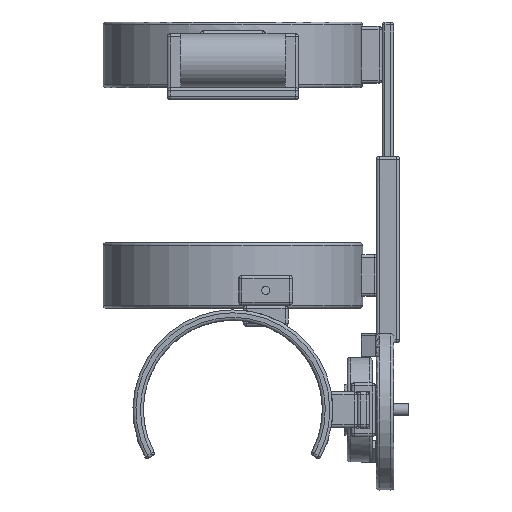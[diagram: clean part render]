
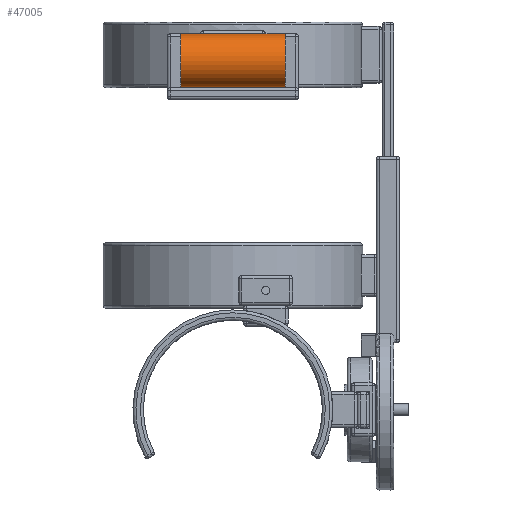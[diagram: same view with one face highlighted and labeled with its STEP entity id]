
A CAD part, front view. The second image highlights one B-rep face of the part: STEP entity #47005.
In plain terms, the highlighted cylindrical face has radius 18 mm (diameter 36 mm), a full revolution.
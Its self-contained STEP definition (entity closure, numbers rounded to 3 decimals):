
#47005 = ADVANCED_FACE('',(#47006),#47019,.T.);
#47006 = FACE_BOUND('',#47007,.T.);
#47007 = EDGE_LOOP('',(#47008,#47042,#47065,#47092));
#47008 = ORIENTED_EDGE('',*,*,#47009,.F.);
#47009 = EDGE_CURVE('',#47010,#47010,#47012,.T.);
#47010 = VERTEX_POINT('',#47011);
#47011 = CARTESIAN_POINT('',(35.,-127.,252.));
#47012 = SURFACE_CURVE('',#47013,(#47018,#47030),.PCURVE_S1.);
#47013 = CIRCLE('',#47014,18.);
#47014 = AXIS2_PLACEMENT_3D('',#47015,#47016,#47017);
#47015 = CARTESIAN_POINT('',(35.,-127.,234.));
#47016 = DIRECTION('',(1.,0.,0.));
#47017 = DIRECTION('',(-0.,0.,1.));
#47018 = PCURVE('',#47019,#47024);
#47019 = CYLINDRICAL_SURFACE('',#47020,18.);
#47020 = AXIS2_PLACEMENT_3D('',#47021,#47022,#47023);
#47021 = CARTESIAN_POINT('',(-35.,-127.,234.));
#47022 = DIRECTION('',(1.,0.,0.));
#47023 = DIRECTION('',(-0.,0.,1.));
#47024 = DEFINITIONAL_REPRESENTATION('',(#47025),#47029);
#47025 = LINE('',#47026,#47027);
#47026 = CARTESIAN_POINT('',(0.,70.));
#47027 = VECTOR('',#47028,1.);
#47028 = DIRECTION('',(1.,0.));
#47029 = ( GEOMETRIC_REPRESENTATION_CONTEXT(2) 
PARAMETRIC_REPRESENTATION_CONTEXT() REPRESENTATION_CONTEXT('2D SPACE',''
  ) );
#47030 = PCURVE('',#47031,#47036);
#47031 = PLANE('',#47032);
#47032 = AXIS2_PLACEMENT_3D('',#47033,#47034,#47035);
#47033 = CARTESIAN_POINT('',(35.,-127.,234.));
#47034 = DIRECTION('',(1.,0.,0.));
#47035 = DIRECTION('',(-0.,0.,1.));
#47036 = DEFINITIONAL_REPRESENTATION('',(#47037),#47041);
#47037 = CIRCLE('',#47038,18.);
#47038 = AXIS2_PLACEMENT_2D('',#47039,#47040);
#47039 = CARTESIAN_POINT('',(0.,0.));
#47040 = DIRECTION('',(1.,0.));
#47041 = ( GEOMETRIC_REPRESENTATION_CONTEXT(2) 
PARAMETRIC_REPRESENTATION_CONTEXT() REPRESENTATION_CONTEXT('2D SPACE',''
  ) );
#47042 = ORIENTED_EDGE('',*,*,#47043,.F.);
#47043 = EDGE_CURVE('',#47044,#47010,#47046,.T.);
#47044 = VERTEX_POINT('',#47045);
#47045 = CARTESIAN_POINT('',(-35.,-127.,252.));
#47046 = SEAM_CURVE('',#47047,(#47051,#47058),.PCURVE_S1.);
#47047 = LINE('',#47048,#47049);
#47048 = CARTESIAN_POINT('',(-35.,-127.,252.));
#47049 = VECTOR('',#47050,1.);
#47050 = DIRECTION('',(1.,0.,0.));
#47051 = PCURVE('',#47019,#47052);
#47052 = DEFINITIONAL_REPRESENTATION('',(#47053),#47057);
#47053 = LINE('',#47054,#47055);
#47054 = CARTESIAN_POINT('',(6.283,-0.));
#47055 = VECTOR('',#47056,1.);
#47056 = DIRECTION('',(0.,1.));
#47057 = ( GEOMETRIC_REPRESENTATION_CONTEXT(2) 
PARAMETRIC_REPRESENTATION_CONTEXT() REPRESENTATION_CONTEXT('2D SPACE',''
  ) );
#47058 = PCURVE('',#47019,#47059);
#47059 = DEFINITIONAL_REPRESENTATION('',(#47060),#47064);
#47060 = LINE('',#47061,#47062);
#47061 = CARTESIAN_POINT('',(0.,-0.));
#47062 = VECTOR('',#47063,1.);
#47063 = DIRECTION('',(0.,1.));
#47064 = ( GEOMETRIC_REPRESENTATION_CONTEXT(2) 
PARAMETRIC_REPRESENTATION_CONTEXT() REPRESENTATION_CONTEXT('2D SPACE',''
  ) );
#47065 = ORIENTED_EDGE('',*,*,#47066,.T.);
#47066 = EDGE_CURVE('',#47044,#47044,#47067,.T.);
#47067 = SURFACE_CURVE('',#47068,(#47073,#47080),.PCURVE_S1.);
#47068 = CIRCLE('',#47069,18.);
#47069 = AXIS2_PLACEMENT_3D('',#47070,#47071,#47072);
#47070 = CARTESIAN_POINT('',(-35.,-127.,234.));
#47071 = DIRECTION('',(1.,0.,0.));
#47072 = DIRECTION('',(-0.,0.,1.));
#47073 = PCURVE('',#47019,#47074);
#47074 = DEFINITIONAL_REPRESENTATION('',(#47075),#47079);
#47075 = LINE('',#47076,#47077);
#47076 = CARTESIAN_POINT('',(0.,0.));
#47077 = VECTOR('',#47078,1.);
#47078 = DIRECTION('',(1.,0.));
#47079 = ( GEOMETRIC_REPRESENTATION_CONTEXT(2) 
PARAMETRIC_REPRESENTATION_CONTEXT() REPRESENTATION_CONTEXT('2D SPACE',''
  ) );
#47080 = PCURVE('',#47081,#47086);
#47081 = PLANE('',#47082);
#47082 = AXIS2_PLACEMENT_3D('',#47083,#47084,#47085);
#47083 = CARTESIAN_POINT('',(-35.,-127.,234.));
#47084 = DIRECTION('',(1.,0.,0.));
#47085 = DIRECTION('',(-0.,0.,1.));
#47086 = DEFINITIONAL_REPRESENTATION('',(#47087),#47091);
#47087 = CIRCLE('',#47088,18.);
#47088 = AXIS2_PLACEMENT_2D('',#47089,#47090);
#47089 = CARTESIAN_POINT('',(0.,0.));
#47090 = DIRECTION('',(1.,0.));
#47091 = ( GEOMETRIC_REPRESENTATION_CONTEXT(2) 
PARAMETRIC_REPRESENTATION_CONTEXT() REPRESENTATION_CONTEXT('2D SPACE',''
  ) );
#47092 = ORIENTED_EDGE('',*,*,#47043,.T.);
